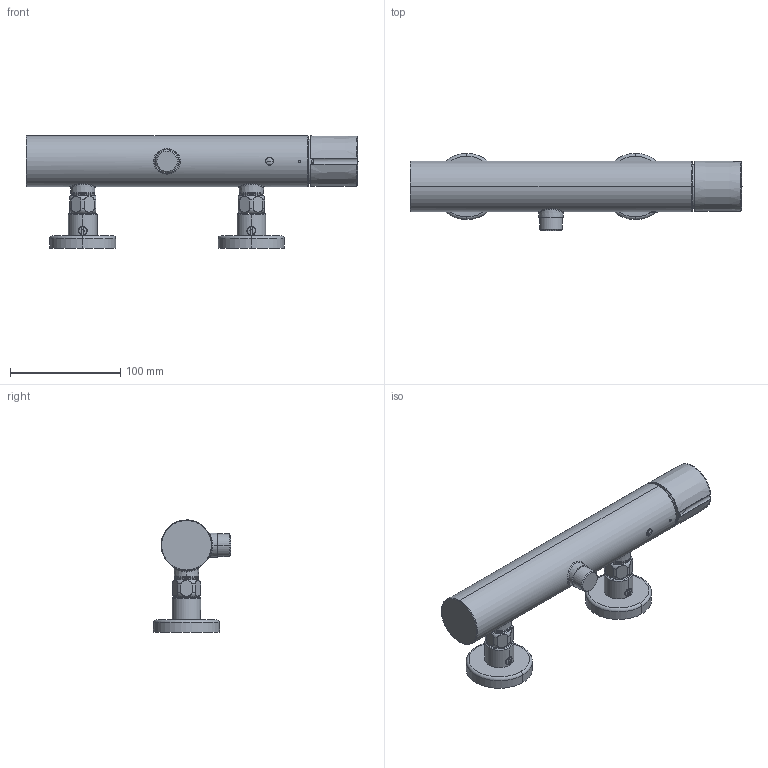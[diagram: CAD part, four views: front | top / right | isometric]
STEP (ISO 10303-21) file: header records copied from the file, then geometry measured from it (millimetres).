
FILE_DESCRIPTION((''),'2;1');
FILE_NAME('ORA_153_SW0001','2022-02-25T07:40:22',('KS894'),(''),'CREO PARAMETRIC BY PTC INC, 2018500','CREO PARAMETRIC BY PTC INC, 2018500','');
FILE_SCHEMA(('CONFIG_CONTROL_DESIGN'));
Length unit declared in the file: millimetre
Products named in the file (1): ORA_153_SW0001
Bounding box: 301.3 x 70 x 101.8 mm (x, y, z)
Volume: 597887.6 mm3; surface area: 75724.8 mm2
Topology: 4 solids, 5 shells, 287 faces, 688 edges, 422 vertices
Faces by surface type: plane 83, cylinder 77, torus 62, bspline 30, cone 21, sphere 14
Entity records: 13956 total; most frequent: CARTESIAN_POINT 7523, ORIENTED_EDGE 1364, DIRECTION 1312, EDGE_CURVE 682, AXIS2_PLACEMENT_3D 559, VERTEX_POINT 422, EDGE_LOOP 310, CIRCLE 302
